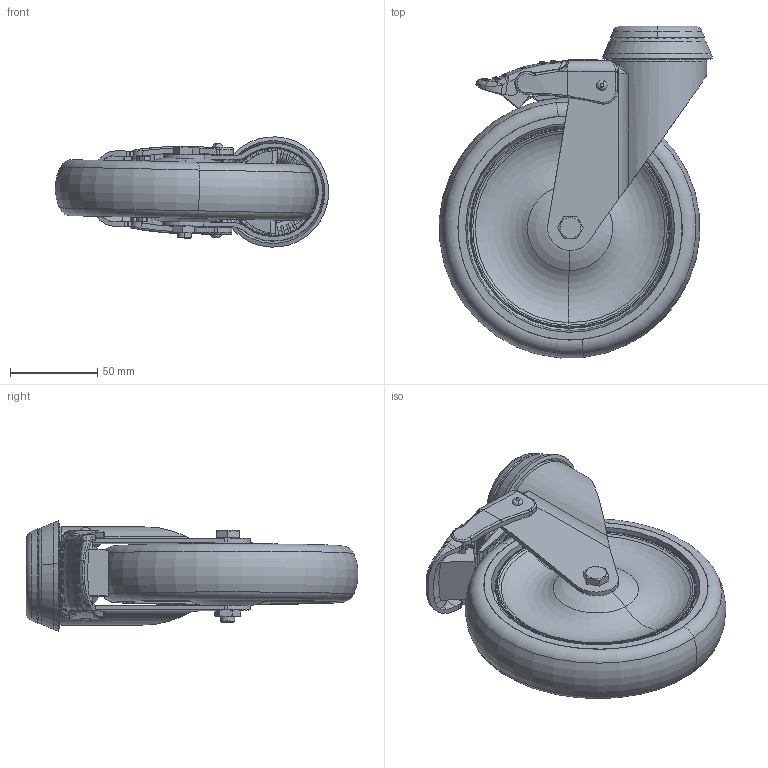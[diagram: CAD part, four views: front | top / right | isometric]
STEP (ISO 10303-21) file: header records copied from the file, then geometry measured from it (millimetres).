
FILE_DESCRIPTION (( 'STEP AP203' ), '1' );
FILE_NAME ('301589_STEP.STEP', '2012-02-28T09:11:29', ( '' ), ( '' ), 'SwSTEP 2.0', 'SolidWorks 2011', '' );
FILE_SCHEMA (( 'CONFIG_CONTROL_DESIGN' ));
Length unit declared in the file: millimetre
Products named in the file (1): 301589_STEP
Bounding box: 156.95 x 190.68 x 63.32 mm (x, y, z)
Surface area: 157459.5 mm2 (no closed solid volume)
Topology: 0 solids, 20 shells, 726 faces, 2854 edges, 2072 vertices
Faces by surface type: bspline 307, plane 236, cylinder 92, cone 51, torus 40
Entity records: 54680 total; most frequent: CARTESIAN_POINT 35535, ORIENTED_EDGE 4309, EDGE_CURVE 2849, DIRECTION 2500, VERTEX_POINT 2072, B_SPLINE_CURVE_WITH_KNOTS 1497, VECTOR 842, LINE 842
